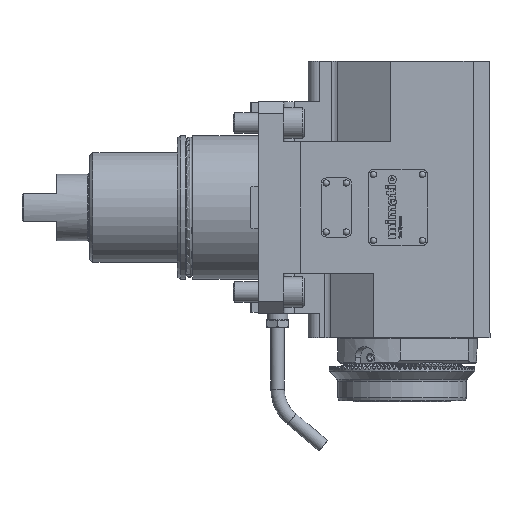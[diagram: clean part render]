
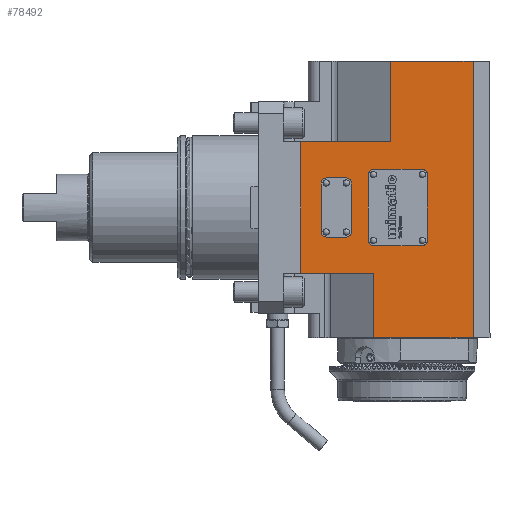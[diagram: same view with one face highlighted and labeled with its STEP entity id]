
A CAD part, front view. The second image highlights one B-rep face of the part: STEP entity #78492.
In plain terms, the highlighted planar face has unit normal (0, -1, 0).
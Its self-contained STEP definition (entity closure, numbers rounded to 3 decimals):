
#33793=VECTOR('',#54553,1.);
#33806=VECTOR('',#54586,1.);
#33844=VECTOR('',#54684,1.);
#33846=VECTOR('',#54690,1.);
#33848=VECTOR('',#54694,1.);
#33849=VECTOR('',#54695,1.);
#33850=VECTOR('',#54696,1.);
#33851=VECTOR('',#54697,1.);
#33852=VECTOR('',#54700,1.);
#33853=VECTOR('',#54703,1.);
#33854=VECTOR('',#54706,1.);
#33855=VECTOR('',#54709,1.);
#33856=VECTOR('',#54710,1.);
#33857=VECTOR('',#54713,1.);
#33858=VECTOR('',#54716,1.);
#33859=VECTOR('',#54719,1.);
#35327=LINE('',#61189,#33793);
#35340=LINE('',#61231,#33806);
#35378=LINE('',#61319,#33844);
#35380=LINE('',#61325,#33846);
#35382=LINE('',#61328,#33848);
#35383=LINE('',#61330,#33849);
#35384=LINE('',#61331,#33850);
#35385=LINE('',#61332,#33851);
#35386=LINE('',#61337,#33852);
#35387=LINE('',#61341,#33853);
#35388=LINE('',#61345,#33854);
#35389=LINE('',#61348,#33855);
#35390=LINE('',#61351,#33856);
#35391=LINE('',#61355,#33857);
#35392=LINE('',#61359,#33858);
#35393=LINE('',#61363,#33859);
#37242=PLANE('',#75993);
#38549=ORIENTED_EDGE('',*,*,#48038,.T.);
#38550=ORIENTED_EDGE('',*,*,#48088,.F.);
#38551=ORIENTED_EDGE('',*,*,#48083,.F.);
#38552=ORIENTED_EDGE('',*,*,#48086,.F.);
#38553=ORIENTED_EDGE('',*,*,#48089,.F.);
#38554=ORIENTED_EDGE('',*,*,#48090,.F.);
#38555=ORIENTED_EDGE('',*,*,#48017,.T.);
#38556=ORIENTED_EDGE('',*,*,#48091,.T.);
#38557=ORIENTED_EDGE('',*,*,#48092,.T.);
#38558=ORIENTED_EDGE('',*,*,#48093,.T.);
#38559=ORIENTED_EDGE('',*,*,#48094,.T.);
#38560=ORIENTED_EDGE('',*,*,#48095,.T.);
#38561=ORIENTED_EDGE('',*,*,#48096,.T.);
#38562=ORIENTED_EDGE('',*,*,#48097,.T.);
#38563=ORIENTED_EDGE('',*,*,#48098,.T.);
#38564=ORIENTED_EDGE('',*,*,#48099,.T.);
#38565=ORIENTED_EDGE('',*,*,#48100,.F.);
#38566=ORIENTED_EDGE('',*,*,#48101,.T.);
#38567=ORIENTED_EDGE('',*,*,#48102,.F.);
#38568=ORIENTED_EDGE('',*,*,#48103,.T.);
#38569=ORIENTED_EDGE('',*,*,#48104,.F.);
#38570=ORIENTED_EDGE('',*,*,#48105,.T.);
#38571=ORIENTED_EDGE('',*,*,#48106,.F.);
#38572=ORIENTED_EDGE('',*,*,#48107,.T.);
#44864=CIRCLE('',#75994,3.);
#44865=CIRCLE('',#75995,3.);
#44866=CIRCLE('',#75996,3.);
#44867=CIRCLE('',#75997,3.);
#44868=CIRCLE('',#75998,3.);
#44869=CIRCLE('',#75999,3.);
#44870=CIRCLE('',#76000,3.);
#44871=CIRCLE('',#76001,3.);
#45773=VERTEX_POINT('',#61186);
#45774=VERTEX_POINT('',#61188);
#45792=VERTEX_POINT('',#61228);
#45793=VERTEX_POINT('',#61230);
#45812=VERTEX_POINT('',#61316);
#45813=VERTEX_POINT('',#61318);
#45815=VERTEX_POINT('',#61324);
#45816=VERTEX_POINT('',#61329);
#45817=VERTEX_POINT('',#61333);
#45818=VERTEX_POINT('',#61334);
#45819=VERTEX_POINT('',#61336);
#45820=VERTEX_POINT('',#61338);
#45821=VERTEX_POINT('',#61340);
#45822=VERTEX_POINT('',#61342);
#45823=VERTEX_POINT('',#61344);
#45824=VERTEX_POINT('',#61346);
#45825=VERTEX_POINT('',#61349);
#45826=VERTEX_POINT('',#61350);
#45827=VERTEX_POINT('',#61352);
#45828=VERTEX_POINT('',#61354);
#45829=VERTEX_POINT('',#61356);
#45830=VERTEX_POINT('',#61358);
#45831=VERTEX_POINT('',#61360);
#45832=VERTEX_POINT('',#61362);
#48017=EDGE_CURVE('',#45774,#45773,#35327,.T.);
#48038=EDGE_CURVE('',#45793,#45792,#35340,.T.);
#48083=EDGE_CURVE('',#45812,#45813,#35378,.T.);
#48086=EDGE_CURVE('',#45815,#45812,#35380,.T.);
#48088=EDGE_CURVE('',#45813,#45792,#35382,.T.);
#48089=EDGE_CURVE('',#45816,#45815,#35383,.T.);
#48090=EDGE_CURVE('',#45774,#45816,#35384,.T.);
#48091=EDGE_CURVE('',#45773,#45793,#35385,.T.);
#48092=EDGE_CURVE('',#45817,#45818,#44864,.T.);
#48093=EDGE_CURVE('',#45818,#45819,#35386,.T.);
#48094=EDGE_CURVE('',#45819,#45820,#44865,.T.);
#48095=EDGE_CURVE('',#45820,#45821,#35387,.T.);
#48096=EDGE_CURVE('',#45821,#45822,#44866,.T.);
#48097=EDGE_CURVE('',#45822,#45823,#35388,.T.);
#48098=EDGE_CURVE('',#45823,#45824,#44867,.T.);
#48099=EDGE_CURVE('',#45824,#45817,#35389,.T.);
#48100=EDGE_CURVE('',#45825,#45826,#35390,.T.);
#48101=EDGE_CURVE('',#45825,#45827,#44868,.T.);
#48102=EDGE_CURVE('',#45828,#45827,#35391,.T.);
#48103=EDGE_CURVE('',#45828,#45829,#44869,.T.);
#48104=EDGE_CURVE('',#45830,#45829,#35392,.T.);
#48105=EDGE_CURVE('',#45830,#45831,#44870,.T.);
#48106=EDGE_CURVE('',#45832,#45831,#35393,.T.);
#48107=EDGE_CURVE('',#45832,#45826,#44871,.T.);
#51272=EDGE_LOOP('',(#38549,#38550,#38551,#38552,#38553,#38554,#38555,#38556));
#51273=EDGE_LOOP('',(#38557,#38558,#38559,#38560,#38561,#38562,#38563,#38564));
#51274=EDGE_LOOP('',(#38565,#38566,#38567,#38568,#38569,#38570,#38571,#38572));
#52842=FACE_BOUND('',#51272,.T.);
#52843=FACE_BOUND('',#51273,.T.);
#52844=FACE_BOUND('',#51274,.T.);
#54553=DIRECTION('',(58.865,0.,0.));
#54586=DIRECTION('',(-49.091,0.,0.));
#54684=DIRECTION('',(52.909,0.,0.));
#54690=DIRECTION('',(0.,0.,78.));
#54692=DIRECTION('',(0.,-1.,0.));
#54693=DIRECTION('',(-1.,0.,0.));
#54694=DIRECTION('',(0.,0.,47.5));
#54695=DIRECTION('',(-43.135,0.,0.));
#54696=DIRECTION('',(0.,0.,38.));
#54697=DIRECTION('',(0.,0.,163.5));
#54698=DIRECTION('',(0.,1.,0.));
#54699=DIRECTION('',(3.,0.,0.));
#54700=DIRECTION('',(-12.,0.,0.));
#54701=DIRECTION('',(0.,1.,0.));
#54702=DIRECTION('',(0.,0.,-3.));
#54703=DIRECTION('',(0.,0.,29.));
#54704=DIRECTION('',(0.,1.,0.));
#54705=DIRECTION('',(-3.,0.,0.));
#54706=DIRECTION('',(12.,0.,0.));
#54707=DIRECTION('',(0.,1.,0.));
#54708=DIRECTION('',(0.,0.,3.));
#54709=DIRECTION('',(0.,0.,-29.));
#54710=DIRECTION('',(-29.,0.,0.));
#54711=DIRECTION('',(0.,1.,0.));
#54712=DIRECTION('',(3.,0.,0.));
#54713=DIRECTION('',(0.,0.,39.));
#54714=DIRECTION('',(0.,1.,0.));
#54715=DIRECTION('',(3.,0.,0.));
#54716=DIRECTION('',(29.,0.,0.));
#54717=DIRECTION('',(0.,1.,0.));
#54718=DIRECTION('',(3.,0.,0.));
#54719=DIRECTION('',(0.,0.,-39.));
#54720=DIRECTION('',(0.,1.,0.));
#54721=DIRECTION('',(3.,0.,0.));
#61186=CARTESIAN_POINT('',(127.,-52.,-77.001));
#61188=CARTESIAN_POINT('',(68.135,-52.,-77.001));
#61189=CARTESIAN_POINT('',(68.135,-52.,-77.001));
#61228=CARTESIAN_POINT('',(77.909,-52.,86.499));
#61230=CARTESIAN_POINT('',(127.,-52.,86.499));
#61231=CARTESIAN_POINT('',(127.,-52.,86.499));
#61316=CARTESIAN_POINT('',(25.,-52.,38.999));
#61318=CARTESIAN_POINT('',(77.909,-52.,38.999));
#61319=CARTESIAN_POINT('',(25.,-52.,38.999));
#61324=CARTESIAN_POINT('',(25.,-52.,-39.001));
#61325=CARTESIAN_POINT('',(25.,-52.,-39.001));
#61327=CARTESIAN_POINT('',(127.,-52.,86.499));
#61328=CARTESIAN_POINT('',(77.909,-52.,38.999));
#61329=CARTESIAN_POINT('',(68.135,-52.,-39.001));
#61330=CARTESIAN_POINT('',(68.135,-52.,-39.001));
#61331=CARTESIAN_POINT('',(68.135,-52.,-77.001));
#61332=CARTESIAN_POINT('',(127.,-52.,-77.001));
#61333=CARTESIAN_POINT('',(55.,-52.,-14.501));
#61334=CARTESIAN_POINT('',(52.,-52.,-17.501));
#61335=CARTESIAN_POINT('',(52.,-52.,-14.501));
#61336=CARTESIAN_POINT('',(40.,-52.,-17.501));
#61337=CARTESIAN_POINT('',(52.,-52.,-17.501));
#61338=CARTESIAN_POINT('',(37.,-52.,-14.501));
#61339=CARTESIAN_POINT('',(40.,-52.,-14.501));
#61340=CARTESIAN_POINT('',(37.,-52.,14.499));
#61341=CARTESIAN_POINT('',(37.,-52.,-14.501));
#61342=CARTESIAN_POINT('',(40.,-52.,17.499));
#61343=CARTESIAN_POINT('',(40.,-52.,14.499));
#61344=CARTESIAN_POINT('',(52.,-52.,17.499));
#61345=CARTESIAN_POINT('',(40.,-52.,17.499));
#61346=CARTESIAN_POINT('',(55.,-52.,14.499));
#61347=CARTESIAN_POINT('',(52.,-52.,14.499));
#61348=CARTESIAN_POINT('',(55.,-52.,14.499));
#61349=CARTESIAN_POINT('',(97.,-52.,22.499));
#61350=CARTESIAN_POINT('',(68.,-52.,22.499));
#61351=CARTESIAN_POINT('',(97.,-52.,22.499));
#61352=CARTESIAN_POINT('',(100.,-52.,19.499));
#61353=CARTESIAN_POINT('',(97.,-52.,19.499));
#61354=CARTESIAN_POINT('',(100.,-52.,-19.501));
#61355=CARTESIAN_POINT('',(100.,-52.,-19.501));
#61356=CARTESIAN_POINT('',(97.,-52.,-22.501));
#61357=CARTESIAN_POINT('',(97.,-52.,-19.501));
#61358=CARTESIAN_POINT('',(68.,-52.,-22.501));
#61359=CARTESIAN_POINT('',(68.,-52.,-22.501));
#61360=CARTESIAN_POINT('',(65.,-52.,-19.501));
#61361=CARTESIAN_POINT('',(68.,-52.,-19.501));
#61362=CARTESIAN_POINT('',(65.,-52.,19.499));
#61363=CARTESIAN_POINT('',(65.,-52.,19.499));
#61364=CARTESIAN_POINT('',(68.,-52.,19.499));
#75993=AXIS2_PLACEMENT_3D('',#61327,#54692,#54693);
#75994=AXIS2_PLACEMENT_3D('',#61335,#54698,#54699);
#75995=AXIS2_PLACEMENT_3D('',#61339,#54701,#54702);
#75996=AXIS2_PLACEMENT_3D('',#61343,#54704,#54705);
#75997=AXIS2_PLACEMENT_3D('',#61347,#54707,#54708);
#75998=AXIS2_PLACEMENT_3D('',#61353,#54711,#54712);
#75999=AXIS2_PLACEMENT_3D('',#61357,#54714,#54715);
#76000=AXIS2_PLACEMENT_3D('',#61361,#54717,#54718);
#76001=AXIS2_PLACEMENT_3D('',#61364,#54720,#54721);
#78492=ADVANCED_FACE('',(#52842,#52843,#52844),#37242,.T.);
